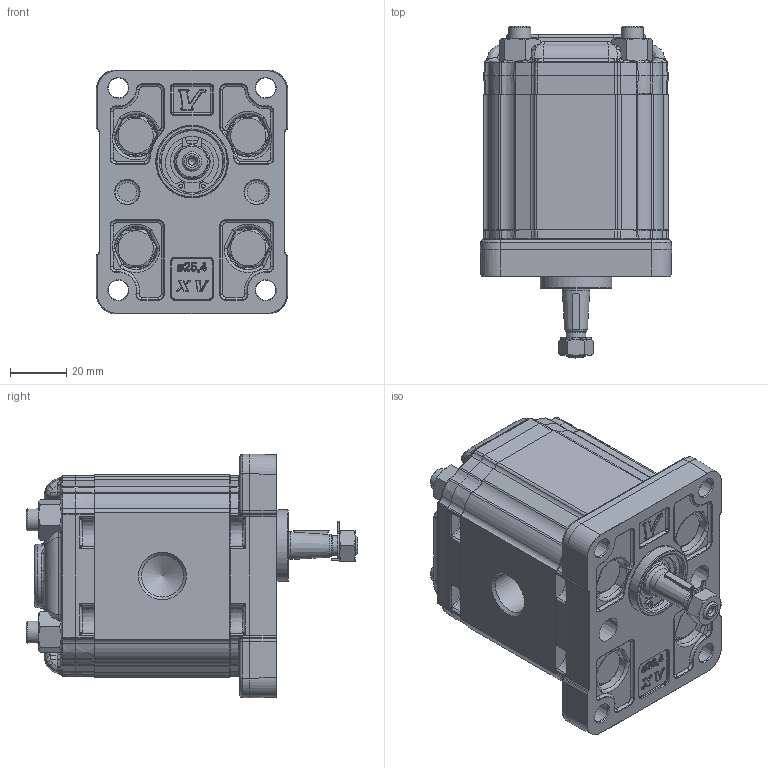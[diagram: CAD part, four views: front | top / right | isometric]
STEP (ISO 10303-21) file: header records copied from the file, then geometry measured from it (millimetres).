
FILE_DESCRIPTION(/* description */ ('Unknown'),/* implementation_level */ '2;1');
FILE_NAME(/* name */ 'X1P2102FBBA',/* time_stamp */ '2026-05-26T18:19:57+02:00',/* author */ ('Unknown'),/* organization */ ('Unknown'),/* preprocessor_version */ 'ST-DEVELOPER v16.7',/* originating_system */ 'Solid Edge',/* authorisation */ 'Unknown');
FILE_SCHEMA (('AUTOMOTIVE_DESIGN {1 0 10303 214 3 1 1}'));
Products named in the file (5): X1P2102FBBA; X1P02; 1F; X1BBH48; XP101-A
Assembly tree (4 placements, depth 2):
  X1P2102FBBA
    X1P02
    1F
    X1BBH48
    XP101-A
Bounding box: 68 x 117.99 x 86.7 mm (x, y, z)
Volume: 340865.3 mm3; surface area: 72534.1 mm2
Topology: 6 solids, 7 shells, 2825 faces, 6687 edges, 3957 vertices
Faces by surface type: cylinder 896, bspline 682, plane 618, torus 311, cone 265, sphere 53
Full cylindrical faces by diameter (mm): 1.447 x2, 2.5 x1, 3.65 x2, 7 x2, 7.15 x4, 7.25 x1, 8 x12, 8.5 x6, 9 x2, 9.92 x1, 10.5 x2, 11.965 x1, 12 x6, 12.923 x1, 14.95 x2, 15.115 x1, 15.181 x1, 19 x1, 20 x1, 22 x2, 22.2 x1, 23 x1, 25.4 x1
Entity records: 138411 total; most frequent: CARTESIAN_POINT 57848, ORIENTED_EDGE 12808, DIRECTION 12301, EDGE_CURVE 6404, AXIS2_PLACEMENT_3D 5100, VERTEX_POINT 3871, FACE_BOUND 3133, EDGE_LOOP 3129
